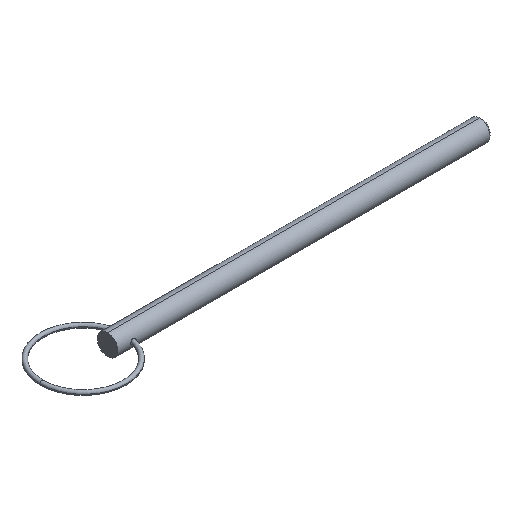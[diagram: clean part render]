
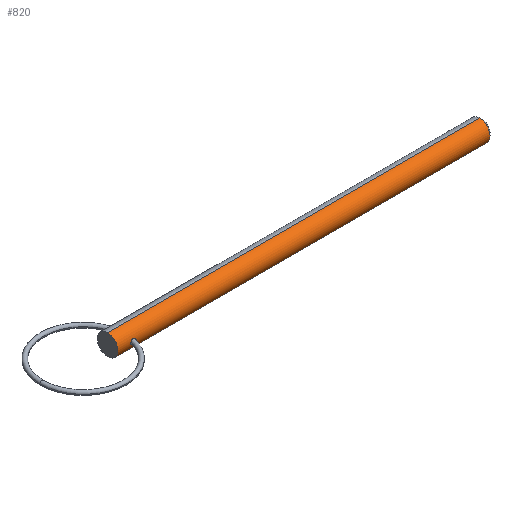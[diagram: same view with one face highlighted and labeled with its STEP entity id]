
A CAD part, isometric view. The second image highlights one B-rep face of the part: STEP entity #820.
In plain terms, the highlighted cylindrical face has radius 3.175 mm (diameter 6.35 mm), a partial arc.
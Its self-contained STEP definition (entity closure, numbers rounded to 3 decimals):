
#5 = FACE_BOUND ( 'NONE', #290, .T. ) ;
#23 = CARTESIAN_POINT ( 'NONE',  ( 4.359, -3.099, -0.704 ) ) ;
#29 = VERTEX_POINT ( 'NONE', #575 ) ;
#33 = LINE ( 'NONE', #603, #251 ) ;
#80 = CARTESIAN_POINT ( 'NONE',  ( 5.504, -3.15, -0.423 ) ) ;
#84 = ORIENTED_EDGE ( 'NONE', *, *, #652, .F. ) ;
#92 = VECTOR ( 'NONE', #343, 1000. ) ;
#96 = ORIENTED_EDGE ( 'NONE', *, *, #116, .T. ) ;
#116 = EDGE_CURVE ( 'NONE', #346, #621, #237, .T. ) ;
#144 = DIRECTION ( 'NONE',  ( 1., 0., 0. ) ) ;
#146 = CARTESIAN_POINT ( 'NONE',  ( 5.489, -3.15, 0.407 ) ) ;
#157 = CARTESIAN_POINT ( 'NONE',  ( 5.569, -3.169, 0.212 ) ) ;
#162 = ORIENTED_EDGE ( 'NONE', *, *, #409, .T. ) ;
#167 = CARTESIAN_POINT ( 'NONE',  ( 4.127, -3.138, -0.49 ) ) ;
#211 = CARTESIAN_POINT ( 'NONE',  ( 5.59, -3.175, 0. ) ) ;
#216 = CARTESIAN_POINT ( 'NONE',  ( 5.59, -3.175, 0. ) ) ;
#237 = CIRCLE ( 'NONE', #342, 3.175 ) ;
#240 = DIRECTION ( 'NONE',  ( 1., 0., 0. ) ) ;
#251 = VECTOR ( 'NONE', #540, 1000. ) ;
#273 = B_SPLINE_CURVE_WITH_KNOTS ( 'NONE', 3,
 ( #608, #352, #80, #779, #559, #498, #275, #544, #23, #167, #553, #782, #485, #677 ),
 .UNSPECIFIED., .F., .F.,
 ( 4, 2, 2, 2, 2, 2, 4 ),
 ( 0.003, 0.003, 0.004, 0.004, 0.005, 0.005, 0.005 ),
 .UNSPECIFIED. ) ;
#275 = CARTESIAN_POINT ( 'NONE',  ( 4.885, -3.074, -0.796 ) ) ;
#281 = EDGE_CURVE ( 'NONE', #621, #29, #33, .T. ) ;
#290 = EDGE_LOOP ( 'NONE', ( #675, #162 ) ) ;
#293 = CARTESIAN_POINT ( 'NONE',  ( 3.95, -3.175, 0. ) ) ;
#313 = DIRECTION ( 'NONE',  ( 1., 0., 0. ) ) ;
#332 = CIRCLE ( 'NONE', #686, 3.175 ) ;
#333 = CARTESIAN_POINT ( 'NONE',  ( 4.567, -3.075, 0.789 ) ) ;
#342 = AXIS2_PLACEMENT_3D ( 'NONE', #387, #144, #518 ) ;
#343 = DIRECTION ( 'NONE',  ( 1., 0., 0. ) ) ;
#345 = CARTESIAN_POINT ( 'NONE',  ( 114.316, 0., 3.175 ) ) ;
#346 = VERTEX_POINT ( 'NONE', #785 ) ;
#350 = AXIS2_PLACEMENT_3D ( 'NONE', #641, #313, #637 ) ;
#352 = CARTESIAN_POINT ( 'NONE',  ( 5.59, -3.175, -0.212 ) ) ;
#374 = CARTESIAN_POINT ( 'NONE',  ( 4.127, -3.138, 0.49 ) ) ;
#382 = FACE_OUTER_BOUND ( 'NONE', #509, .T. ) ;
#386 = CARTESIAN_POINT ( 'NONE',  ( 3.95, -3.175, 0. ) ) ;
#387 = CARTESIAN_POINT ( 'NONE',  ( 0., 0., 0. ) ) ;
#397 = CARTESIAN_POINT ( 'NONE',  ( 3.974, -3.169, 0.212 ) ) ;
#403 = CARTESIAN_POINT ( 'NONE',  ( 0., 0., 3.175 ) ) ;
#404 = VERTEX_POINT ( 'NONE', #345 ) ;
#409 = EDGE_CURVE ( 'NONE', #415, #805, #273, .T. ) ;
#412 = CARTESIAN_POINT ( 'NONE',  ( 5.189, -3.097, 0.702 ) ) ;
#415 = VERTEX_POINT ( 'NONE', #211 ) ;
#419 = CARTESIAN_POINT ( 'NONE',  ( 5.429, -3.137, 0.497 ) ) ;
#441 = DIRECTION ( 'NONE',  ( 0., 0., -1. ) ) ;
#447 = ORIENTED_EDGE ( 'NONE', *, *, #595, .F. ) ;
#458 = CYLINDRICAL_SURFACE ( 'NONE', #350, 3.175 ) ;
#485 = CARTESIAN_POINT ( 'NONE',  ( 3.95, -3.175, -0.106 ) ) ;
#490 = CARTESIAN_POINT ( 'NONE',  ( 4.992, -3.078, 0.778 ) ) ;
#498 = CARTESIAN_POINT ( 'NONE',  ( 4.992, -3.078, -0.778 ) ) ;
#509 = EDGE_LOOP ( 'NONE', ( #84, #96, #623, #447 ) ) ;
#518 = DIRECTION ( 'NONE',  ( 0., 0., -1. ) ) ;
#529 = CARTESIAN_POINT ( 'NONE',  ( 4.36, -3.099, 0.705 ) ) ;
#534 = CARTESIAN_POINT ( 'NONE',  ( 5.59, -3.175, 0.106 ) ) ;
#540 = DIRECTION ( 'NONE',  ( 1., 0., 0. ) ) ;
#544 = CARTESIAN_POINT ( 'NONE',  ( 4.568, -3.075, -0.789 ) ) ;
#546 = CARTESIAN_POINT ( 'NONE',  ( 5.279, -3.11, 0.644 ) ) ;
#553 = CARTESIAN_POINT ( 'NONE',  ( 4.064, -3.151, -0.404 ) ) ;
#559 = CARTESIAN_POINT ( 'NONE',  ( 5.188, -3.097, -0.702 ) ) ;
#575 = CARTESIAN_POINT ( 'NONE',  ( 114.316, 0., -3.175 ) ) ;
#594 = CARTESIAN_POINT ( 'NONE',  ( 4.063, -3.151, 0.403 ) ) ;
#595 = EDGE_CURVE ( 'NONE', #404, #29, #332, .T. ) ;
#603 = CARTESIAN_POINT ( 'NONE',  ( 0., 0., -3.175 ) ) ;
#605 = LINE ( 'NONE', #403, #92 ) ;
#608 = CARTESIAN_POINT ( 'NONE',  ( 5.59, -3.175, 0. ) ) ;
#618 = CARTESIAN_POINT ( 'NONE',  ( 114.316, 0., 0. ) ) ;
#621 = VERTEX_POINT ( 'NONE', #795 ) ;
#623 = ORIENTED_EDGE ( 'NONE', *, *, #281, .T. ) ;
#628 = B_SPLINE_CURVE_WITH_KNOTS ( 'NONE', 3,
 ( #293, #716, #397, #594, #374, #529, #333, #725, #490, #412, #546, #419, #146, #157, #534, #216 ),
 .UNSPECIFIED., .F., .F.,
 ( 4, 2, 2, 2, 2, 2, 2, 4 ),
 ( 0., 0.001, 0.001, 0.002, 0.002, 0.002, 0.003, 0.003 ),
 .UNSPECIFIED. ) ;
#637 = DIRECTION ( 'NONE',  ( 0., 0., -1. ) ) ;
#641 = CARTESIAN_POINT ( 'NONE',  ( 0., 0., 0. ) ) ;
#652 = EDGE_CURVE ( 'NONE', #346, #404, #605, .T. ) ;
#675 = ORIENTED_EDGE ( 'NONE', *, *, #780, .T. ) ;
#677 = CARTESIAN_POINT ( 'NONE',  ( 3.95, -3.175, 0. ) ) ;
#686 = AXIS2_PLACEMENT_3D ( 'NONE', #618, #240, #441 ) ;
#716 = CARTESIAN_POINT ( 'NONE',  ( 3.95, -3.175, 0.106 ) ) ;
#725 = CARTESIAN_POINT ( 'NONE',  ( 4.886, -3.074, 0.796 ) ) ;
#779 = CARTESIAN_POINT ( 'NONE',  ( 5.279, -3.11, -0.644 ) ) ;
#780 = EDGE_CURVE ( 'NONE', #805, #415, #628, .T. ) ;
#782 = CARTESIAN_POINT ( 'NONE',  ( 3.974, -3.169, -0.212 ) ) ;
#785 = CARTESIAN_POINT ( 'NONE',  ( 0., 0., 3.175 ) ) ;
#795 = CARTESIAN_POINT ( 'NONE',  ( 0., 0., -3.175 ) ) ;
#805 = VERTEX_POINT ( 'NONE', #386 ) ;
#820 = ADVANCED_FACE ( 'NONE', ( #382, #5 ), #458, .T. ) ;
